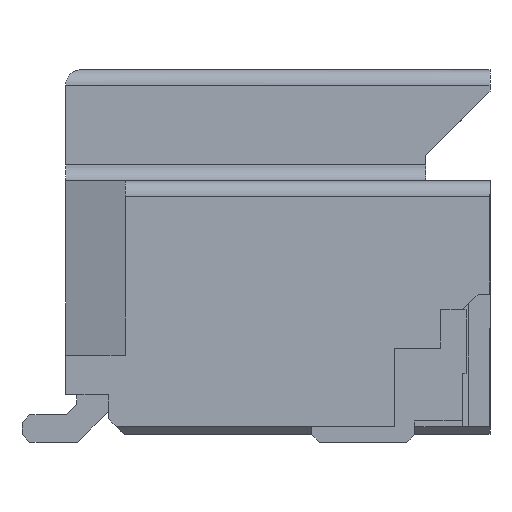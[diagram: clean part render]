
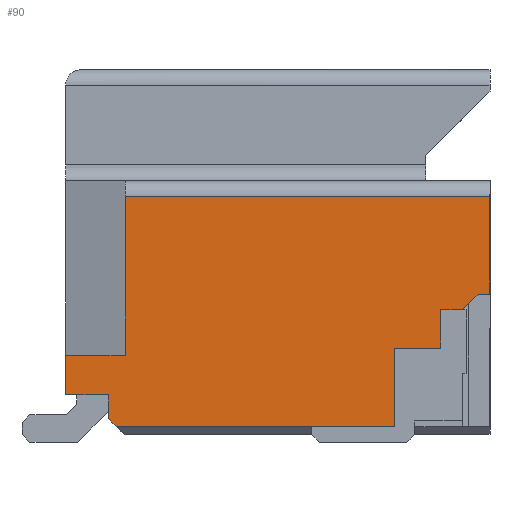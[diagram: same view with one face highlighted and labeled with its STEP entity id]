
A CAD part, left-side view. The second image highlights one B-rep face of the part: STEP entity #90.
In plain terms, the highlighted planar face has unit normal (-1, 0, 0).
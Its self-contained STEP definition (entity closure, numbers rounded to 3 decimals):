
#90=ADVANCED_FACE('',(#549),#324,.F.);
#324=PLANE('',#4748);
#549=FACE_OUTER_BOUND('',#790,.T.);
#790=EDGE_LOOP('',(#1257,#1258,#1259,#1260,#1261,#1262,#1263,#1264,#1265,
#1266,#1267,#1268,#1269,#1270,#1271));
#1257=ORIENTED_EDGE('',*,*,#2862,.F.);
#1258=ORIENTED_EDGE('',*,*,#2987,.T.);
#1259=ORIENTED_EDGE('',*,*,#2988,.F.);
#1260=ORIENTED_EDGE('',*,*,#2989,.F.);
#1261=ORIENTED_EDGE('',*,*,#2983,.F.);
#1262=ORIENTED_EDGE('',*,*,#2990,.F.);
#1263=ORIENTED_EDGE('',*,*,#2766,.F.);
#1264=ORIENTED_EDGE('',*,*,#2991,.F.);
#1265=ORIENTED_EDGE('',*,*,#2921,.T.);
#1266=ORIENTED_EDGE('',*,*,#2926,.T.);
#1267=ORIENTED_EDGE('',*,*,#2929,.T.);
#1268=ORIENTED_EDGE('',*,*,#2931,.T.);
#1269=ORIENTED_EDGE('',*,*,#2912,.T.);
#1270=ORIENTED_EDGE('',*,*,#2992,.T.);
#1271=ORIENTED_EDGE('',*,*,#2993,.T.);
#2330=VERTEX_POINT('',#6124);
#2331=VERTEX_POINT('',#6126);
#2425=VERTEX_POINT('',#6318);
#2426=VERTEX_POINT('',#6320);
#2467=VERTEX_POINT('',#6414);
#2470=VERTEX_POINT('',#6419);
#2478=VERTEX_POINT('',#6437);
#2479=VERTEX_POINT('',#6439);
#2482=VERTEX_POINT('',#6447);
#2484=VERTEX_POINT('',#6453);
#2525=VERTEX_POINT('',#6560);
#2526=VERTEX_POINT('',#6562);
#2528=VERTEX_POINT('',#6569);
#2529=VERTEX_POINT('',#6571);
#2530=VERTEX_POINT('',#6576);
#2766=EDGE_CURVE('',#2330,#2331,#3427,.T.);
#2862=EDGE_CURVE('',#2425,#2426,#3522,.T.);
#2912=EDGE_CURVE('',#2467,#2470,#3570,.T.);
#2921=EDGE_CURVE('',#2479,#2478,#3579,.T.);
#2926=EDGE_CURVE('',#2478,#2482,#3584,.T.);
#2929=EDGE_CURVE('',#2482,#2484,#3587,.T.);
#2931=EDGE_CURVE('',#2484,#2467,#3589,.T.);
#2983=EDGE_CURVE('',#2525,#2526,#3640,.T.);
#2987=EDGE_CURVE('',#2425,#2528,#3643,.T.);
#2988=EDGE_CURVE('',#2529,#2528,#3644,.T.);
#2989=EDGE_CURVE('',#2526,#2529,#3645,.T.);
#2990=EDGE_CURVE('',#2331,#2525,#3646,.T.);
#2991=EDGE_CURVE('',#2479,#2330,#3647,.T.);
#2992=EDGE_CURVE('',#2470,#2530,#3648,.T.);
#2993=EDGE_CURVE('',#2530,#2426,#3649,.T.);
#3427=LINE('',#6125,#4076);
#3522=LINE('',#6319,#4171);
#3570=LINE('',#6420,#4219);
#3579=LINE('',#6438,#4228);
#3584=LINE('',#6448,#4233);
#3587=LINE('',#6454,#4236);
#3589=LINE('',#6457,#4238);
#3640=LINE('',#6561,#4289);
#3643=LINE('',#6568,#4292);
#3644=LINE('',#6570,#4293);
#3645=LINE('',#6572,#4294);
#3646=LINE('',#6573,#4295);
#3647=LINE('',#6574,#4296);
#3648=LINE('',#6575,#4297);
#3649=LINE('',#6577,#4298);
#4076=VECTOR('',#4974,1.);
#4171=VECTOR('',#5077,1.);
#4219=VECTOR('',#5141,1.);
#4228=VECTOR('',#5152,1.);
#4233=VECTOR('',#5159,1.);
#4236=VECTOR('',#5164,1.);
#4238=VECTOR('',#5168,1.);
#4289=VECTOR('',#5243,1.);
#4292=VECTOR('',#5250,1.);
#4293=VECTOR('',#5251,1.);
#4294=VECTOR('',#5252,1.);
#4295=VECTOR('',#5253,1.);
#4296=VECTOR('',#5254,1.);
#4297=VECTOR('',#5255,1.);
#4298=VECTOR('',#5256,1.);
#4748=AXIS2_PLACEMENT_3D('',#6578,#5257,#5258);
#4974=DIRECTION('',(0.,0.,1.));
#5077=DIRECTION('',(0.,0.,-1.));
#5141=DIRECTION('',(0.,-1.,0.));
#5152=DIRECTION('',(0.,-1.,0.));
#5159=DIRECTION('',(0.,0.,1.));
#5164=DIRECTION('',(0.,-1.,0.));
#5168=DIRECTION('',(0.,0.,1.));
#5243=DIRECTION('',(0.,0.,1.));
#5250=DIRECTION('',(0.,1.,0.));
#5251=DIRECTION('',(0.,0.,1.));
#5252=DIRECTION('',(0.,-1.,0.));
#5253=DIRECTION('',(0.,1.,0.));
#5254=DIRECTION('',(0.,0.707,0.707));
#5255=DIRECTION('',(0.,-0.707,0.707));
#5256=DIRECTION('',(0.,-1.,0.));
#5257=DIRECTION('',(1.,0.,0.));
#5258=DIRECTION('',(0.,0.,-1.));
#6124=CARTESIAN_POINT('',(-4.5,5.7,0.06));
#6125=CARTESIAN_POINT('',(-4.5,5.7,0.36));
#6126=CARTESIAN_POINT('',(-4.5,5.7,0.36));
#6318=CARTESIAN_POINT('',(-4.5,0.89,2.86));
#6319=CARTESIAN_POINT('',(-4.5,0.89,3.06));
#6320=CARTESIAN_POINT('',(-4.5,0.89,1.63));
#6414=CARTESIAN_POINT('',(-4.5,1.51,1.43));
#6419=CARTESIAN_POINT('',(-4.5,1.24,1.43));
#6420=CARTESIAN_POINT('',(-4.5,1.51,1.43));
#6437=CARTESIAN_POINT('',(-4.5,2.09,-0.04));
#6438=CARTESIAN_POINT('',(-4.5,53.855,-0.04));
#6439=CARTESIAN_POINT('',(-4.5,5.6,-0.04));
#6447=CARTESIAN_POINT('',(-4.5,2.09,0.95));
#6448=CARTESIAN_POINT('',(-4.5,2.09,-0.04));
#6453=CARTESIAN_POINT('',(-4.5,1.51,0.95));
#6454=CARTESIAN_POINT('',(-4.5,2.09,0.95));
#6457=CARTESIAN_POINT('',(-4.5,1.51,0.95));
#6560=CARTESIAN_POINT('',(-4.5,6.24,0.36));
#6561=CARTESIAN_POINT('',(-4.5,6.24,-0.14));
#6562=CARTESIAN_POINT('',(-4.5,6.24,0.86));
#6568=CARTESIAN_POINT('',(-4.5,0.,2.86));
#6569=CARTESIAN_POINT('',(-4.5,5.49,2.86));
#6570=CARTESIAN_POINT('',(-4.5,5.49,0.86));
#6571=CARTESIAN_POINT('',(-4.5,5.49,0.86));
#6572=CARTESIAN_POINT('',(-4.5,6.24,0.86));
#6573=CARTESIAN_POINT('',(-4.5,6.24,0.36));
#6574=CARTESIAN_POINT('',(-4.5,5.7,0.06));
#6575=CARTESIAN_POINT('',(-4.5,1.24,1.43));
#6576=CARTESIAN_POINT('',(-4.5,1.04,1.63));
#6577=CARTESIAN_POINT('',(-4.5,1.04,1.63));
#6578=CARTESIAN_POINT('',(-4.5,0.,0.));
